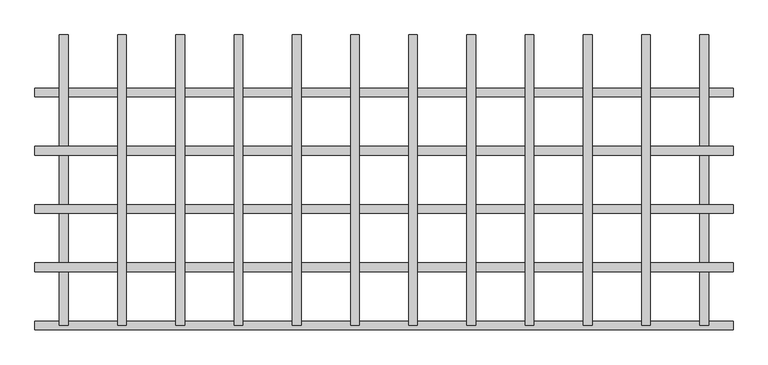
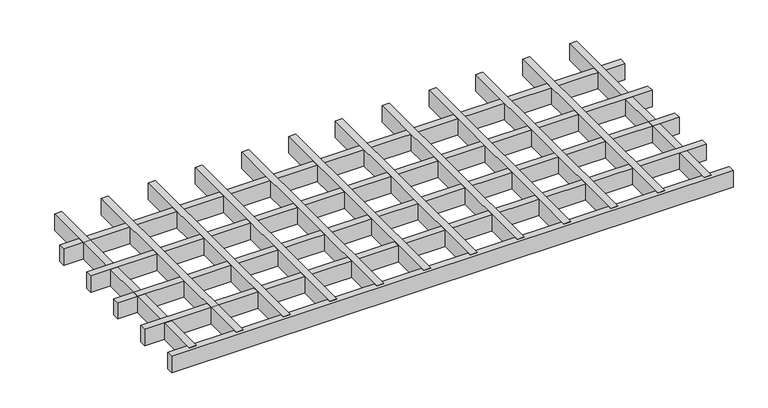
"""IFC4 building model written with IfcOpenShell, lengths in millimetres: proxy geometry, durlum_GEO_panel : durlum_GEO_15_width_cut."""

from ifc_helpers import new_model, si_unit, origin, origin_with_axes, place, context, project, spatial, polyline, outline, extrude, source, transform, mapped, element, save


def generic_models_ce95ff9e(model_context):
    return source(origin(), model_context, "Body", "SweptSolid", [
        extrude(outline(polyline([(442.5, 249.5), (457.5, 249.5), (457.5, -249.5), (442.5, -249.5), (442.5, 249.5)])), origin_with_axes(), (0.0, 0.0, 1.0), 37.0),
        extrude(outline(polyline([(342.5, 249.5), (357.5, 249.5), (357.5, -249.5), (342.5, -249.5), (342.5, 249.5)])), origin_with_axes(), (0.0, 0.0, 1.0), 37.0),
        extrude(outline(polyline([(242.5, 249.5), (257.5, 249.5), (257.5, -249.5), (242.5, -249.5), (242.5, 249.5)])), origin_with_axes(), (0.0, 0.0, 1.0), 37.0),
        extrude(outline(polyline([(142.5, 249.5), (157.5, 249.5), (157.5, -249.5), (142.5, -249.5), (142.5, 249.5)])), origin_with_axes(), (0.0, 0.0, 1.0), 37.0),
        extrude(outline(polyline([(42.5, 249.5), (57.5, 249.5), (57.5, -249.5), (42.5, -249.5), (42.5, 249.5)])), origin_with_axes(), (0.0, 0.0, 1.0), 37.0),
        extrude(outline(polyline([(-57.5, 249.5), (-42.5, 249.5), (-42.5, -249.5), (-57.5, -249.5), (-57.5, 249.5)])), origin_with_axes(), (0.0, 0.0, 1.0), 37.0),
        extrude(outline(polyline([(-157.5, 249.5), (-142.5, 249.5), (-142.5, -249.5), (-157.5, -249.5), (-157.5, 249.5)])), origin_with_axes(), (0.0, 0.0, 1.0), 37.0),
        extrude(outline(polyline([(-257.5, 249.5), (-242.5, 249.5), (-242.5, -249.5), (-257.5, -249.5), (-257.5, 249.5)])), origin_with_axes(), (0.0, 0.0, 1.0), 37.0),
        extrude(outline(polyline([(-357.5, 249.5), (-342.5, 249.5), (-342.5, -249.5), (-357.5, -249.5), (-357.5, 249.5)])), origin_with_axes(), (0.0, 0.0, 1.0), 37.0),
        extrude(outline(polyline([(-457.5, 249.5), (-442.5, 249.5), (-442.5, -249.5), (-457.5, -249.5), (-457.5, 249.5)])), origin_with_axes(), (0.0, 0.0, 1.0), 37.0),
        extrude(outline(polyline([(599.5, -142.0), (599.5, -157.0), (-599.5, -157.0), (-599.5, -142.0), (599.5, -142.0)])), origin_with_axes(), (0.0, 0.0, 1.0), 37.0),
        extrude(outline(polyline([(599.5, -42.0), (599.5, -57.0), (-599.5, -57.0), (-599.5, -42.0), (599.5, -42.0)])), origin_with_axes(), (0.0, 0.0, 1.0), 37.0),
        extrude(outline(polyline([(599.5, 58.0), (599.5, 43.0), (-599.5, 43.0), (-599.5, 58.0), (599.5, 58.0)])), origin_with_axes(), (0.0, 0.0, 1.0), 37.0),
        extrude(outline(polyline([(542.5, 249.5), (557.5, 249.5), (557.5, -249.5), (542.5, -249.5), (542.5, 249.5)])), origin_with_axes(), (0.0, 0.0, 1.0), 37.0),
        extrude(outline(polyline([(-557.5, 249.5), (-542.5, 249.5), (-542.5, -249.5), (-557.5, -249.5), (-557.5, 249.5)])), origin_with_axes(), (0.0, 0.0, 1.0), 37.0),
        extrude(outline(polyline([(599.5, -242.0), (599.5, -257.0), (-599.5, -257.0), (-599.5, -242.0), (599.5, -242.0)])), origin_with_axes(), (0.0, 0.0, 1.0), 37.0),
        extrude(outline(polyline([(599.5, 158.0), (599.5, 143.0), (-599.5, 143.0), (-599.5, 158.0), (599.5, 158.0)])), origin_with_axes(), (0.0, 0.0, 1.0), 37.0),
    ])


if __name__ == "__main__":
    model = new_model("IFC4")
    model_context = context("Model", 3, world=origin())
    ifc_project = project(units=[si_unit("LENGTHUNIT", "METRE", prefix="MILLI")], contexts=[model_context])
    site = spatial("IfcSite", under=ifc_project)
    building = spatial("IfcBuilding", under=site)
    placement = place(None, origin())
    generic_models_shape = generic_models_ce95ff9e(model_context)
    element("IfcBuildingElementProxy", 1, Name="durlum_GEO_panel : durlum_GEO_15_width_cut", ObjectType="durlum_GEO_panel : durlum_GEO_15_width_cut", at=placement, inside=building, context=model_context, shape_type="MappedRepresentation", body=[
        mapped(generic_models_shape, transform((0.0, 0.0, 0.0), x_axis=(1.0, 0.0, 0.0), y_axis=(0.0, 1.0, 0.0), z_axis=(0.0, 0.0, 1.0))),
    ])
    save(model, "model.ifc")
